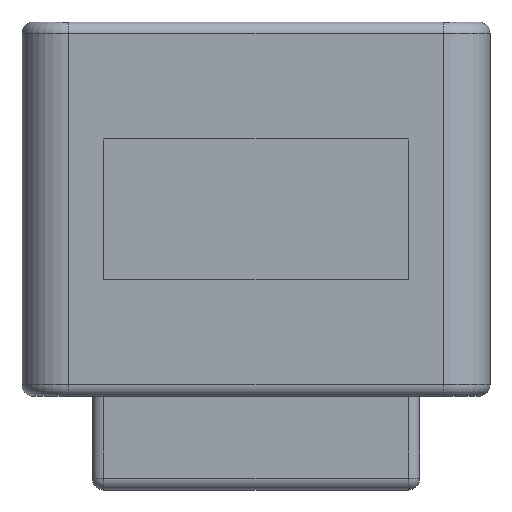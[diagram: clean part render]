
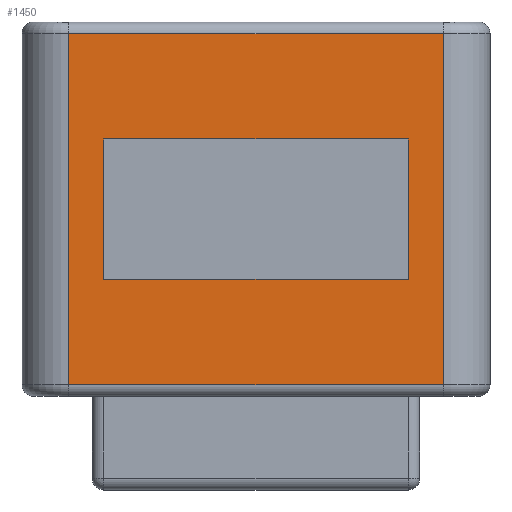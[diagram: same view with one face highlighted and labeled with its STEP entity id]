
A CAD part, front view. The second image highlights one B-rep face of the part: STEP entity #1450.
In plain terms, the highlighted planar face has unit normal (0, -1, 0).
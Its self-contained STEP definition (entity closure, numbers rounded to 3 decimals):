
#39=FACE_BOUND('',#206,.T.);
#54=PLANE('',#1593);
#104=FACE_OUTER_BOUND('',#205,.T.);
#205=EDGE_LOOP('',(#1058,#1059,#1060,#1061));
#206=EDGE_LOOP('',(#1062,#1063,#1064,#1065));
#335=LINE('',#2381,#458);
#336=LINE('',#2383,#459);
#337=LINE('',#2385,#460);
#338=LINE('',#2386,#461);
#339=LINE('',#2389,#462);
#340=LINE('',#2391,#463);
#341=LINE('',#2393,#464);
#342=LINE('',#2394,#465);
#458=VECTOR('',#1871,1000.);
#459=VECTOR('',#1872,1000.);
#460=VECTOR('',#1873,1000.);
#461=VECTOR('',#1874,1000.);
#462=VECTOR('',#1875,1000.);
#463=VECTOR('',#1876,1000.);
#464=VECTOR('',#1877,1000.);
#465=VECTOR('',#1878,1000.);
#683=VERTEX_POINT('',#2379);
#684=VERTEX_POINT('',#2380);
#685=VERTEX_POINT('',#2382);
#686=VERTEX_POINT('',#2384);
#687=VERTEX_POINT('',#2387);
#688=VERTEX_POINT('',#2388);
#689=VERTEX_POINT('',#2390);
#690=VERTEX_POINT('',#2392);
#825=EDGE_CURVE('',#683,#684,#335,.T.);
#826=EDGE_CURVE('',#684,#685,#336,.T.);
#827=EDGE_CURVE('',#685,#686,#337,.T.);
#828=EDGE_CURVE('',#686,#683,#338,.T.);
#829=EDGE_CURVE('',#687,#688,#339,.T.);
#830=EDGE_CURVE('',#689,#687,#340,.T.);
#831=EDGE_CURVE('',#690,#689,#341,.T.);
#832=EDGE_CURVE('',#688,#690,#342,.T.);
#1058=ORIENTED_EDGE('',*,*,#825,.T.);
#1059=ORIENTED_EDGE('',*,*,#826,.T.);
#1060=ORIENTED_EDGE('',*,*,#827,.T.);
#1061=ORIENTED_EDGE('',*,*,#828,.T.);
#1062=ORIENTED_EDGE('',*,*,#829,.F.);
#1063=ORIENTED_EDGE('',*,*,#830,.F.);
#1064=ORIENTED_EDGE('',*,*,#831,.F.);
#1065=ORIENTED_EDGE('',*,*,#832,.F.);
#1450=ADVANCED_FACE('',(#104,#39),#54,.F.);
#1593=AXIS2_PLACEMENT_3D('',#2378,#1869,#1870);
#1869=DIRECTION('center_axis',(0.,1.,0.));
#1870=DIRECTION('ref_axis',(0.,0.,1.));
#1871=DIRECTION('',(0.,0.,-1.));
#1872=DIRECTION('',(1.,0.,0.));
#1873=DIRECTION('',(0.,0.,1.));
#1874=DIRECTION('',(-1.,0.,0.));
#1875=DIRECTION('',(-1.,0.,0.));
#1876=DIRECTION('',(0.,0.,1.));
#1877=DIRECTION('',(1.,0.,0.));
#1878=DIRECTION('',(0.,0.,-1.));
#2378=CARTESIAN_POINT('Origin',(10.,-10.,8.));
#2379=CARTESIAN_POINT('',(-8.,-10.,7.5));
#2380=CARTESIAN_POINT('',(-8.,-10.,-7.5));
#2381=CARTESIAN_POINT('',(-8.,-10.,8.));
#2382=CARTESIAN_POINT('',(8.,-10.,-7.5));
#2383=CARTESIAN_POINT('',(10.,-10.,-7.5));
#2384=CARTESIAN_POINT('',(8.,-10.,7.5));
#2385=CARTESIAN_POINT('',(8.,-10.,8.));
#2386=CARTESIAN_POINT('',(-8.,-10.,7.5));
#2387=CARTESIAN_POINT('',(6.5,-10.,3.));
#2388=CARTESIAN_POINT('',(-6.5,-10.,3.));
#2389=CARTESIAN_POINT('',(-6.5,-10.,3.));
#2390=CARTESIAN_POINT('',(6.5,-10.,-3.));
#2391=CARTESIAN_POINT('',(6.5,-10.,3.));
#2392=CARTESIAN_POINT('',(-6.5,-10.,-3.));
#2393=CARTESIAN_POINT('',(-6.5,-10.,-3.));
#2394=CARTESIAN_POINT('',(-6.5,-10.,3.));
